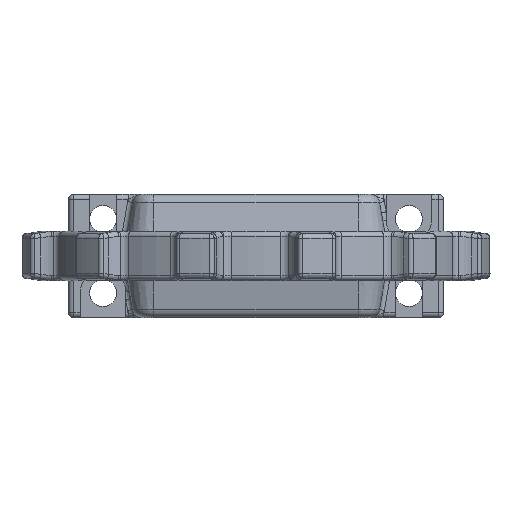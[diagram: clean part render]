
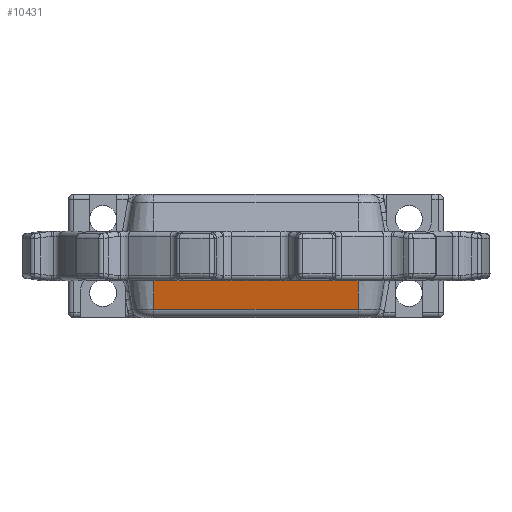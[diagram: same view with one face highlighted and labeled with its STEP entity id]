
A CAD part, front view. The second image highlights one B-rep face of the part: STEP entity #10431.
In plain terms, the highlighted planar face has unit normal (0, -0.985, -0.174).
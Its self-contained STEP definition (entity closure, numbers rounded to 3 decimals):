
#9334=FACE_OUTER_BOUND('',#13584,.T.);
#10431=ADVANCED_FACE('',(#9334),#11170,.F.);
#11170=PLANE('',#27357);
#13584=EDGE_LOOP('',(#17164,#17165,#17166,#17167));
#17164=ORIENTED_EDGE('',*,*,#22962,.T.);
#17165=ORIENTED_EDGE('',*,*,#22963,.F.);
#17166=ORIENTED_EDGE('',*,*,#22964,.T.);
#17167=ORIENTED_EDGE('',*,*,#22959,.T.);
#20736=VERTEX_POINT('',#41462);
#20737=VERTEX_POINT('',#41463);
#20738=VERTEX_POINT('',#41468);
#20739=VERTEX_POINT('',#41470);
#22959=EDGE_CURVE('',#20736,#20737,#24764,.T.);
#22962=EDGE_CURVE('',#20737,#20738,#24765,.T.);
#22963=EDGE_CURVE('',#20739,#20738,#24766,.T.);
#22964=EDGE_CURVE('',#20739,#20736,#24767,.T.);
#24764=LINE('',#41461,#25893);
#24765=LINE('',#41467,#25894);
#24766=LINE('',#41469,#25895);
#24767=LINE('',#41471,#25896);
#25893=VECTOR('',#30966,1.);
#25894=VECTOR('',#30973,1.);
#25895=VECTOR('',#30974,1.);
#25896=VECTOR('',#30975,1.);
#27357=AXIS2_PLACEMENT_3D('',#41472,#30976,#30977);
#30966=DIRECTION('',(0.,-0.174,0.985));
#30973=DIRECTION('',(-1.,0.,0.));
#30974=DIRECTION('',(0.,-0.174,0.985));
#30975=DIRECTION('',(1.,0.,0.));
#30976=DIRECTION('',(0.,0.985,0.174));
#30977=DIRECTION('',(0.,0.174,-0.985));
#41461=CARTESIAN_POINT('',(170.75,-24.75,-12.5));
#41462=CARTESIAN_POINT('',(170.75,-25.041,-10.847));
#41463=CARTESIAN_POINT('',(170.75,-26.072,-5.));
#41467=CARTESIAN_POINT('',(150.,-26.072,-5.));
#41468=CARTESIAN_POINT('',(129.25,-26.072,-5.));
#41469=CARTESIAN_POINT('',(129.25,-24.75,-12.5));
#41470=CARTESIAN_POINT('',(129.25,-25.041,-10.847));
#41471=CARTESIAN_POINT('',(170.75,-25.041,-10.847));
#41472=CARTESIAN_POINT('',(150.,-24.75,-12.5));
